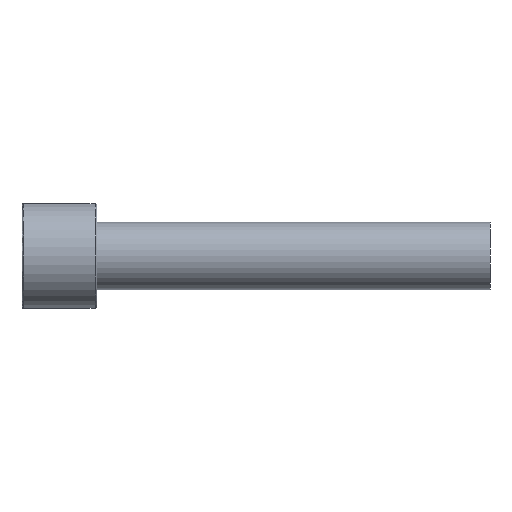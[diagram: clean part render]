
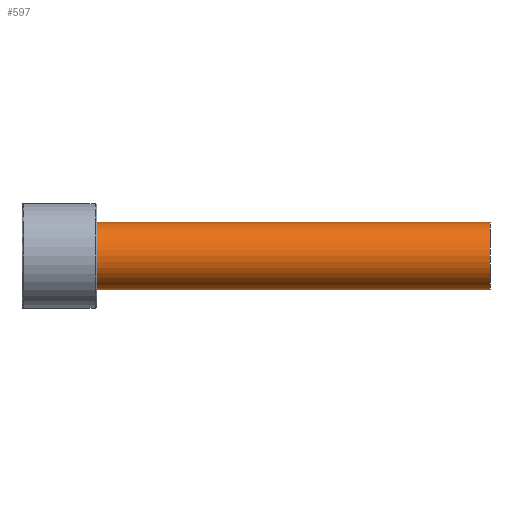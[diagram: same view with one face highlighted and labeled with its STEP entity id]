
A CAD part, front view. The second image highlights one B-rep face of the part: STEP entity #597.
In plain terms, the highlighted cylindrical face has radius 9 mm (diameter 18 mm), a partial arc.
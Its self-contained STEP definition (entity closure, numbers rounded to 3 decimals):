
#431=CARTESIAN_POINT('Vertex',(125.,0.,9.)) ;
#434=CARTESIAN_POINT('Axis2P3D Location',(125.,0.,0.)) ;
#438=CARTESIAN_POINT('Vertex',(125.,-9.,0.)) ;
#441=CARTESIAN_POINT('Axis2P3D Location',(125.,0.,0.)) ;
#445=CARTESIAN_POINT('Vertex',(125.,0.,-9.)) ;
#537=CARTESIAN_POINT('Line Origine',(125.,0.,9.)) ;
#541=CARTESIAN_POINT('Vertex',(20.,0.,9.)) ;
#544=CARTESIAN_POINT('Line Origine',(125.,0.,-9.)) ;
#548=CARTESIAN_POINT('Vertex',(20.,0.,-9.)) ;
#572=CARTESIAN_POINT('Axis2P3D Location',(125.,0.,0.)) ;
#577=CARTESIAN_POINT('Axis2P3D Location',(20.,0.,0.)) ;
#581=CARTESIAN_POINT('Vertex',(20.,-9.,0.)) ;
#584=CARTESIAN_POINT('Axis2P3D Location',(20.,0.,0.)) ;
#435=DIRECTION('Axis2P3D Direction',(1.,0.,-0.)) ;
#442=DIRECTION('Axis2P3D Direction',(1.,0.,-0.)) ;
#538=DIRECTION('Vector Direction',(-1.,0.,0.)) ;
#545=DIRECTION('Vector Direction',(-1.,0.,0.)) ;
#573=DIRECTION('Axis2P3D Direction',(-1.,-0.,-0.)) ;
#574=DIRECTION('Axis2P3D XDirection',(0.,0.,-1.)) ;
#578=DIRECTION('Axis2P3D Direction',(-1.,-0.,-0.)) ;
#585=DIRECTION('Axis2P3D Direction',(-1.,-0.,-0.)) ;
#436=AXIS2_PLACEMENT_3D('Circle Axis2P3D',#434,#435,$) ;
#443=AXIS2_PLACEMENT_3D('Circle Axis2P3D',#441,#442,$) ;
#575=AXIS2_PLACEMENT_3D('Cylinder Axis2P3D',#572,#573,#574) ;
#579=AXIS2_PLACEMENT_3D('Circle Axis2P3D',#577,#578,$) ;
#586=AXIS2_PLACEMENT_3D('Circle Axis2P3D',#584,#585,$) ;
#590=ORIENTED_EDGE('',*,*,#550,.T.) ;
#591=ORIENTED_EDGE('',*,*,#447,.F.) ;
#592=ORIENTED_EDGE('',*,*,#440,.F.) ;
#593=ORIENTED_EDGE('',*,*,#543,.T.) ;
#594=ORIENTED_EDGE('',*,*,#583,.T.) ;
#595=ORIENTED_EDGE('',*,*,#588,.T.) ;
#539=VECTOR('Line Direction',#538,1.) ;
#546=VECTOR('Line Direction',#545,1.) ;
#597=ADVANCED_FACE('367F-18X125',(#596),#576,.T.) ;
#437=CIRCLE('generated circle',#436,9.) ;
#444=CIRCLE('generated circle',#443,9.) ;
#580=CIRCLE('generated circle',#579,9.) ;
#587=CIRCLE('generated circle',#586,9.) ;
#576=CYLINDRICAL_SURFACE('generated cylinder',#575,9.) ;
#440=EDGE_CURVE('',#432,#439,#437,.T.) ;
#447=EDGE_CURVE('',#439,#446,#444,.T.) ;
#543=EDGE_CURVE('',#432,#542,#540,.T.) ;
#550=EDGE_CURVE('',#549,#446,#547,.F.) ;
#583=EDGE_CURVE('',#542,#582,#580,.F.) ;
#588=EDGE_CURVE('',#582,#549,#587,.F.) ;
#589=EDGE_LOOP('',(#590,#591,#592,#593,#594,#595)) ;
#596=FACE_OUTER_BOUND('',#589,.T.) ;
#540=LINE('Line',#537,#539) ;
#547=LINE('Line',#544,#546) ;
#432=VERTEX_POINT('',#431) ;
#439=VERTEX_POINT('',#438) ;
#446=VERTEX_POINT('',#445) ;
#542=VERTEX_POINT('',#541) ;
#549=VERTEX_POINT('',#548) ;
#582=VERTEX_POINT('',#581) ;
